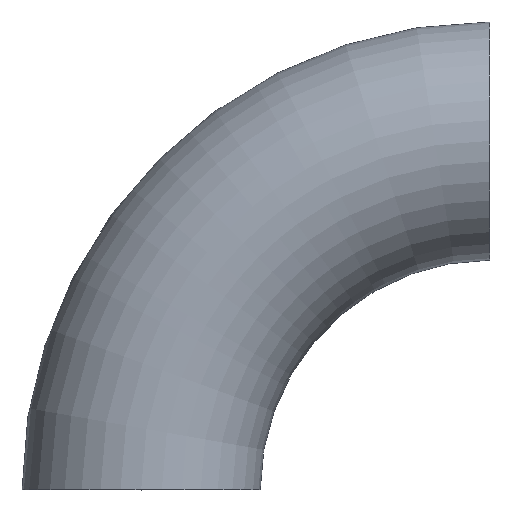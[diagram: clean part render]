
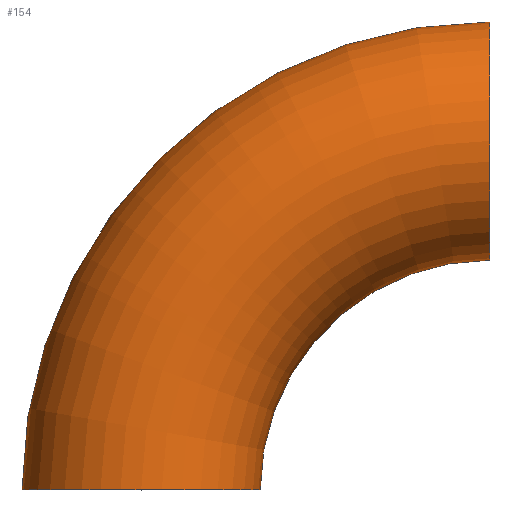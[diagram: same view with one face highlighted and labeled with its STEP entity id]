
A CAD part, top view. The second image highlights one B-rep face of the part: STEP entity #154.
In plain terms, the highlighted toroidal (fillet/blend) face has major radius 123 mm and minor radius 42 mm.
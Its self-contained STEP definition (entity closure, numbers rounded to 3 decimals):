
#1 = DIRECTION ( 'NONE',  ( 0., 1., 0. ) ) ;
#2 = CARTESIAN_POINT ( 'NONE',  ( 123., 0., 0. ) ) ;
#10 = AXIS2_PLACEMENT_3D ( 'NONE', #231, #26, #103 ) ;
#15 = CARTESIAN_POINT ( 'NONE',  ( 123., 123., 0. ) ) ;
#20 = AXIS2_PLACEMENT_3D ( 'NONE', #100, #1, #47 ) ;
#21 = CARTESIAN_POINT ( 'NONE',  ( 123., 81., 0. ) ) ;
#25 = DIRECTION ( 'NONE',  ( 0., 0., 1. ) ) ;
#26 = DIRECTION ( 'NONE',  ( 0., 0., 1. ) ) ;
#32 = FACE_OUTER_BOUND ( 'NONE', #184, .T. ) ;
#38 = ORIENTED_EDGE ( 'NONE', *, *, #64, .F. ) ;
#39 = CARTESIAN_POINT ( 'NONE',  ( -42., 0., 0. ) ) ;
#47 = DIRECTION ( 'NONE',  ( 0., 0., 1. ) ) ;
#51 = VERTEX_POINT ( 'NONE', #39 ) ;
#55 = CIRCLE ( 'NONE', #20, 42. ) ;
#56 = EDGE_CURVE ( 'NONE', #90, #216, #238, .T. ) ;
#57 = CIRCLE ( 'NONE', #10, 165. ) ;
#64 = EDGE_CURVE ( 'NONE', #216, #148, #118, .T. ) ;
#77 = DIRECTION ( 'NONE',  ( 0., 0., 1. ) ) ;
#90 = VERTEX_POINT ( 'NONE', #144 ) ;
#99 = EDGE_CURVE ( 'NONE', #90, #51, #57, .T. ) ;
#100 = CARTESIAN_POINT ( 'NONE',  ( 0., 0., 0. ) ) ;
#103 = DIRECTION ( 'NONE',  ( 1., 0., 0. ) ) ;
#109 = ORIENTED_EDGE ( 'NONE', *, *, #56, .F. ) ;
#118 = CIRCLE ( 'NONE', #140, 81. ) ;
#134 = AXIS2_PLACEMENT_3D ( 'NONE', #2, #236, #217 ) ;
#140 = AXIS2_PLACEMENT_3D ( 'NONE', #250, #25, #233 ) ;
#144 = CARTESIAN_POINT ( 'NONE',  ( 123., 165., 0. ) ) ;
#148 = VERTEX_POINT ( 'NONE', #199 ) ;
#153 = ORIENTED_EDGE ( 'NONE', *, *, #99, .T. ) ;
#154 = ADVANCED_FACE ( 'NONE', ( #32 ), #198, .T. ) ;
#172 = EDGE_CURVE ( 'NONE', #51, #148, #55, .T. ) ;
#178 = AXIS2_PLACEMENT_3D ( 'NONE', #15, #214, #77 ) ;
#184 = EDGE_LOOP ( 'NONE', ( #109, #153, #191, #38 ) ) ;
#191 = ORIENTED_EDGE ( 'NONE', *, *, #172, .T. ) ;
#198 = TOROIDAL_SURFACE ( 'NONE', #134, 123., 42. ) ;
#199 = CARTESIAN_POINT ( 'NONE',  ( 42., 0., 0. ) ) ;
#214 = DIRECTION ( 'NONE',  ( 1., 0., 0. ) ) ;
#216 = VERTEX_POINT ( 'NONE', #21 ) ;
#217 = DIRECTION ( 'NONE',  ( 1., 0., 0. ) ) ;
#231 = CARTESIAN_POINT ( 'NONE',  ( 123., 0., 0. ) ) ;
#233 = DIRECTION ( 'NONE',  ( 1., 0., 0. ) ) ;
#236 = DIRECTION ( 'NONE',  ( 0., 0., 1. ) ) ;
#238 = CIRCLE ( 'NONE', #178, 42. ) ;
#250 = CARTESIAN_POINT ( 'NONE',  ( 123., 0., 0. ) ) ;
